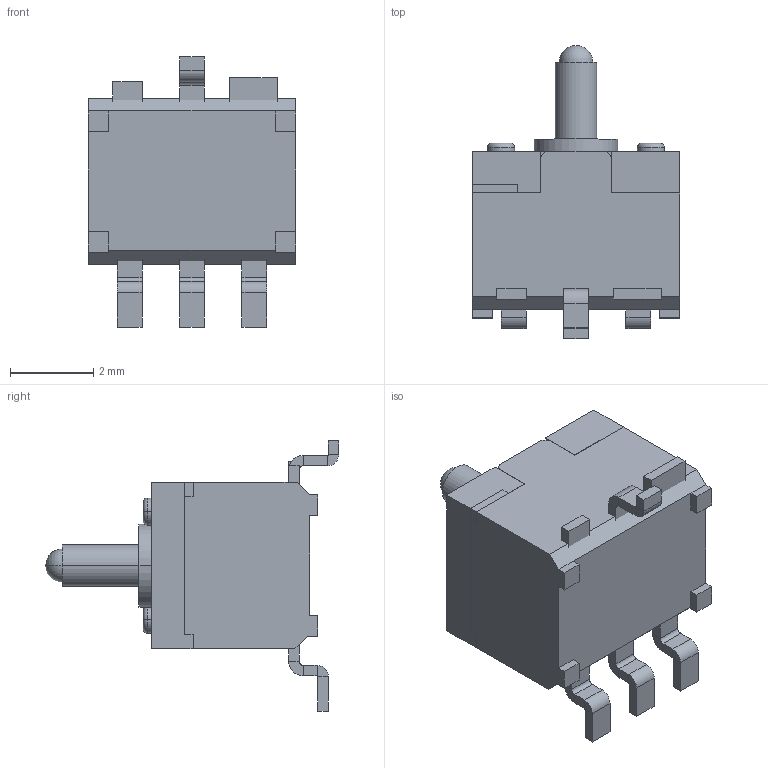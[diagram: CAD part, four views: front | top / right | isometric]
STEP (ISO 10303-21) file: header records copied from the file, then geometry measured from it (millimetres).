
FILE_DESCRIPTION((''),'2;1');
FILE_NAME('ASM0001_ASM','2015-01-24T',('Administrator'),(''),'PRO/ENGINEER BY PARAMETRIC TECHNOLOGY CORPORATION, 2010370','PRO/ENGINEER BY PARAMETRIC TECHNOLOGY CORPORATION, 2010370','');
FILE_SCHEMA(('CONFIG_CONTROL_DESIGN'));
Length unit declared in the file: millimetre
Products named in the file (6): 11-91111; 11-91112; 11-91113; 18-91101; 12N91202; ASM0001_ASM
Assembly tree (5 placements, depth 2):
  ASM0001_ASM
    11-91111
    11-91112
    11-91113
    18-91101
    12N91202
Bounding box: 5 x 7.05 x 6.5 mm (x, y, z)
Volume: 59.5 mm3; surface area: 323.1 mm2
Topology: 6 solids, 6 shells, 318 faces, 783 edges, 479 vertices
Faces by surface type: plane 239, cylinder 61, torus 12, bspline 4, sphere 2
Entity records: 12804 total; most frequent: CARTESIAN_POINT 5120, ORIENTED_EDGE 1562, DIRECTION 1561, EDGE_CURVE 781, VECTOR 625, LINE 625, VERTEX_POINT 479, AXIS2_PLACEMENT_3D 468
